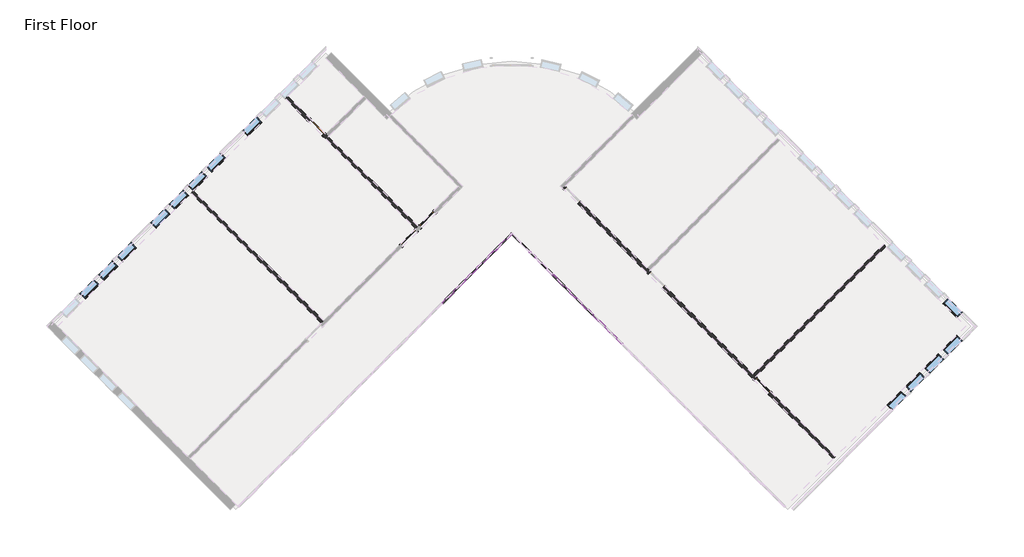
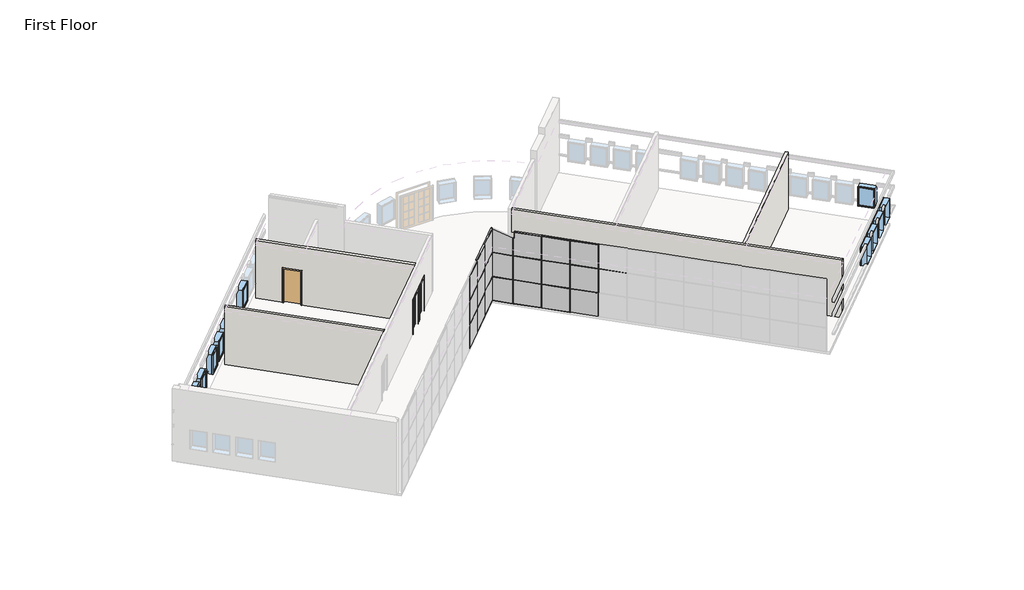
# One storey, part 3 of 5: 47 members, 21 plates, 13 windows, 4 doors, 4 walls.
"""IFC4 building model written with IfcOpenShell, lengths in millimetres."""

from ifc_helpers import new_model, si_unit, origin, origin_with_axes, place, context, project, spatial, polyline, outline, extrude, faceted_brep, transform, mapped, element, save
from components import door_f9494b7c, door_b81abb0e, door_5f5b55da, member_b8a5b5c0, member_155beb68, member_f5090587, member_42be4715, member_6121af53, member_bd80eb51, member_a3731390, member_b87a50da, member_beb33b19, member_b73a8a31, member_6675e4ca, member_4ed907bf, system_panel_glazed_f8555db4, system_panel_glazed_da345f4e, system_panel_glazed_b4114ee2, system_panel_solid_51be2c86, system_panel_solid_5fd6f37f, system_panel_solid_e1a07a15, system_panel_solid_99f695d0, system_panel_solid_2f1037e2, system_panel_solid_f673cd79, system_panel_solid_3576f13f, window_15c49d37, window_0e2fc6ce

model = new_model("IFC4")

# Units and contexts
model_context = context("Model", 3, world=origin())
ifc_project = project(units=[si_unit("LENGTHUNIT", "METRE", prefix="MILLI")], contexts=[model_context])

# Site, building, storey
site = spatial("IfcSite", under=ifc_project)
building = spatial("IfcBuilding", under=site)
storey = spatial("IfcBuildingStorey", under=building, Name="First Floor", Elevation=0.0)

# Doors
placement = place(None, origin())
door_shape = door_f9494b7c(model_context)
element("IfcDoor", 1, ObjectType="Single-Flush : 36\" x 84\"", at=placement, inside=storey, context=model_context, shape_type="MappedRepresentation", body=[
    mapped(door_shape, transform((-11920.1265343, 7875.9588464, 0.0), x_axis=(0.7071067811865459, -0.7071067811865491, 0.0), y_axis=(0.7071067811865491, 0.7071067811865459, 0.0), z_axis=(0.0, 0.0, 1.0))),
])
door_2_shape = door_b81abb0e(model_context)
element("IfcDoor", 2, ObjectType="Single-Glass 1 : 36\" x 84\"", at=placement, inside=storey, context=model_context, shape_type="MappedRepresentation", body=[
    mapped(door_2_shape, transform((-7643.2795567, 2737.0072811, 0.0), x_axis=(0.7071067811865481, 0.7071067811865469, 0.0), y_axis=(-0.7071067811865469, 0.7071067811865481, 0.0), z_axis=(0.0, 0.0, 1.0))),
])
door_3_shape = door_5f5b55da(model_context)
element("IfcDoor", 3, ObjectType="Single-Glass 1 : 36\" x 84\"", at=placement, inside=storey, context=model_context, shape_type="MappedRepresentation", body=[
    mapped(door_3_shape, transform((-6781.1749691, 3599.1118687, 0.0), x_axis=(-0.7071067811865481, -0.7071067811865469, 0.0), y_axis=(0.7071067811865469, -0.7071067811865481, 0.0), z_axis=(0.0, 0.0, 1.0))),
])
element("IfcDoor", 4, ObjectType="Single-Glass 1 : 36\" x 84\"", at=placement, inside=storey, context=model_context, shape_type="MappedRepresentation", body=[
    mapped(door_3_shape, transform((8770.3835686, -4126.1534594, 0.0), x_axis=(-0.7071067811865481, 0.7071067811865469, 0.0), y_axis=(-0.7071067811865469, -0.7071067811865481, 0.0), z_axis=(0.0, 0.0, 1.0))),
])

# Members
member_shape = member_b8a5b5c0(model_context)
element("IfcMember", 5, ObjectType="Rectangular Mullion : 1.5\" x 2.5\" Rectangular", at=placement, inside=storey, context=model_context, shape_type="MappedRepresentation", body=[
    mapped(member_shape, transform((-2894.9691327, 2925.5926597, 0.0), x_axis=(0.0, 0.0, -1.0), y_axis=(-0.7071067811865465, 0.7071067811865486, 0.0), z_axis=(0.7071067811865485, 0.7071067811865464, 0.0))),
])
member_2_shape = member_155beb68(model_context)
element("IfcMember", 6, ObjectType="Rectangular Mullion : 1.5\" x 2.5\" Rectangular", at=placement, inside=storey, context=model_context, shape_type="MappedRepresentation", body=[
    mapped(member_2_shape, transform((-3945.6590988, 1874.9026935, 0.0), x_axis=(-0.7071067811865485, -0.7071067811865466, 0.0), y_axis=(-0.7071067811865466, 0.7071067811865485, 0.0), z_axis=(0.0, 0.0, -1.0))),
])
element("IfcMember", 7, ObjectType="Rectangular Mullion : 1.5\" x 2.5\" Rectangular", at=placement, inside=storey, context=model_context, shape_type="MappedRepresentation", body=[
    mapped(member_2_shape, transform((-5023.2898334, 797.271959, 0.0), x_axis=(-0.7071067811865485, -0.7071067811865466, 0.0), y_axis=(-0.7071067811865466, 0.7071067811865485, 0.0), z_axis=(0.0, 0.0, -1.0))),
])
element("IfcMember", 8, ObjectType="Rectangular Mullion : 1.5\" x 2.5\" Rectangular", at=placement, inside=storey, context=model_context, shape_type="MappedRepresentation", body=[
    mapped(member_2_shape, transform((115.6617319, -31.1566682, 0.0), x_axis=(-0.7071067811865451, 0.70710678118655, 0.0), y_axis=(0.70710678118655, 0.7071067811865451, 0.0), z_axis=(0.0, 0.0, -1.0))),
])
element("IfcMember", 9, ObjectType="Rectangular Mullion : 1.5\" x 2.5\" Rectangular", at=placement, inside=storey, context=model_context, shape_type="MappedRepresentation", body=[
    mapped(member_2_shape, transform((-961.9690026, 1046.4740663, 0.0), x_axis=(-0.7071067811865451, 0.70710678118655, 0.0), y_axis=(0.70710678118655, 0.7071067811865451, 0.0), z_axis=(0.0, 0.0, -1.0))),
])
element("IfcMember", 10, ObjectType="Rectangular Mullion : 1.5\" x 2.5\" Rectangular", at=placement, inside=storey, context=model_context, shape_type="MappedRepresentation", body=[
    mapped(member_2_shape, transform((-2039.5997371, 2124.1048009, 0.0), x_axis=(-0.7071067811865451, 0.70710678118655, 0.0), y_axis=(0.70710678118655, 0.7071067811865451, 0.0), z_axis=(0.0, 0.0, -1.0))),
])
element("IfcMember", 11, ObjectType="Rectangular Mullion : 1.5\" x 2.5\" Rectangular", at=placement, inside=storey, context=model_context, shape_type="MappedRepresentation", body=[
    mapped(member_2_shape, transform((-3945.6590988, 1874.9026935, 3048.0), x_axis=(-0.7071067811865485, -0.7071067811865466, 0.0), y_axis=(-0.7071067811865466, 0.7071067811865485, 0.0), z_axis=(0.0, 0.0, -1.0))),
])
element("IfcMember", 12, ObjectType="Rectangular Mullion : 1.5\" x 2.5\" Rectangular", at=placement, inside=storey, context=model_context, shape_type="MappedRepresentation", body=[
    mapped(member_2_shape, transform((-5023.2898334, 797.271959, 3048.0), x_axis=(-0.7071067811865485, -0.7071067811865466, 0.0), y_axis=(-0.7071067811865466, 0.7071067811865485, 0.0), z_axis=(0.0, 0.0, -1.0))),
])
element("IfcMember", 13, ObjectType="Rectangular Mullion : 1.5\" x 2.5\" Rectangular", at=placement, inside=storey, context=model_context, shape_type="MappedRepresentation", body=[
    mapped(member_2_shape, transform((1193.2924664, -1108.7874027, 3048.0), x_axis=(-0.7071067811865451, 0.70710678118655, 0.0), y_axis=(0.70710678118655, 0.7071067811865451, 0.0), z_axis=(0.0, 0.0, -1.0))),
])
element("IfcMember", 14, ObjectType="Rectangular Mullion : 1.5\" x 2.5\" Rectangular", at=placement, inside=storey, context=model_context, shape_type="MappedRepresentation", body=[
    mapped(member_2_shape, transform((115.6617319, -31.1566682, 3048.0), x_axis=(-0.7071067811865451, 0.70710678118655, 0.0), y_axis=(0.70710678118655, 0.7071067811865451, 0.0), z_axis=(0.0, 0.0, -1.0))),
])
element("IfcMember", 15, ObjectType="Rectangular Mullion : 1.5\" x 2.5\" Rectangular", at=placement, inside=storey, context=model_context, shape_type="MappedRepresentation", body=[
    mapped(member_2_shape, transform((-961.9690026, 1046.4740663, 3048.0), x_axis=(-0.7071067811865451, 0.70710678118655, 0.0), y_axis=(0.70710678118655, 0.7071067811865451, 0.0), z_axis=(0.0, 0.0, -1.0))),
])
element("IfcMember", 16, ObjectType="Rectangular Mullion : 1.5\" x 2.5\" Rectangular", at=placement, inside=storey, context=model_context, shape_type="MappedRepresentation", body=[
    mapped(member_2_shape, transform((-3945.6590988, 1874.9026935, 1524.0), x_axis=(-0.7071067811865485, -0.7071067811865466, 0.0), y_axis=(-0.7071067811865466, 0.7071067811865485, 0.0), z_axis=(0.0, 0.0, -1.0))),
])
element("IfcMember", 17, ObjectType="Rectangular Mullion : 1.5\" x 2.5\" Rectangular", at=placement, inside=storey, context=model_context, shape_type="MappedRepresentation", body=[
    mapped(member_2_shape, transform((-5023.2898334, 797.271959, 1524.0), x_axis=(-0.7071067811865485, -0.7071067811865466, 0.0), y_axis=(-0.7071067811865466, 0.7071067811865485, 0.0), z_axis=(0.0, 0.0, -1.0))),
])
element("IfcMember", 18, ObjectType="Rectangular Mullion : 1.5\" x 2.5\" Rectangular", at=placement, inside=storey, context=model_context, shape_type="MappedRepresentation", body=[
    mapped(member_2_shape, transform((1193.2924664, -1108.7874027, 1524.0), x_axis=(-0.7071067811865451, 0.70710678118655, 0.0), y_axis=(0.70710678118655, 0.7071067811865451, 0.0), z_axis=(0.0, 0.0, -1.0))),
])
element("IfcMember", 19, ObjectType="Rectangular Mullion : 1.5\" x 2.5\" Rectangular", at=placement, inside=storey, context=model_context, shape_type="MappedRepresentation", body=[
    mapped(member_2_shape, transform((115.6617319, -31.1566682, 1524.0), x_axis=(-0.7071067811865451, 0.70710678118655, 0.0), y_axis=(0.70710678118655, 0.7071067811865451, 0.0), z_axis=(0.0, 0.0, -1.0))),
])
element("IfcMember", 20, ObjectType="Rectangular Mullion : 1.5\" x 2.5\" Rectangular", at=placement, inside=storey, context=model_context, shape_type="MappedRepresentation", body=[
    mapped(member_2_shape, transform((-961.9690026, 1046.4740663, 1524.0), x_axis=(-0.7071067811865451, 0.70710678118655, 0.0), y_axis=(0.70710678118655, 0.7071067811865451, 0.0), z_axis=(0.0, 0.0, -1.0))),
])
element("IfcMember", 21, ObjectType="Rectangular Mullion : 1.5\" x 2.5\" Rectangular", at=placement, inside=storey, context=model_context, shape_type="MappedRepresentation", body=[
    mapped(member_2_shape, transform((-2039.5997371, 2124.1048009, 1524.0), x_axis=(-0.7071067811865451, 0.70710678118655, 0.0), y_axis=(0.70710678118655, 0.7071067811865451, 0.0), z_axis=(0.0, 0.0, -1.0))),
])
member_3_shape = member_f5090587(model_context)
element("IfcMember", 22, ObjectType="Rectangular Mullion : 1.5\" x 2.5\" Rectangular", at=placement, inside=storey, context=model_context, shape_type="MappedRepresentation", body=[
    mapped(member_3_shape, transform((-3932.1887147, 1888.3730777, 1524.0), x_axis=(0.0, 0.0, 1.0), y_axis=(-0.7071067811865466, 0.7071067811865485, 0.0), z_axis=(-0.7071067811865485, -0.7071067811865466, 0.0))),
])
element("IfcMember", 23, ObjectType="Rectangular Mullion : 1.5\" x 2.5\" Rectangular", at=placement, inside=storey, context=model_context, shape_type="MappedRepresentation", body=[
    mapped(member_3_shape, transform((-3932.1887147, 1888.3730777, 3048.0), x_axis=(0.0, 0.0, 1.0), y_axis=(-0.7071067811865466, 0.7071067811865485, 0.0), z_axis=(-0.7071067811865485, -0.7071067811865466, 0.0))),
])
member_4_shape = member_42be4715(model_context)
element("IfcMember", 24, ObjectType="Rectangular Mullion : 1.5\" x 2.5\" Rectangular", at=placement, inside=storey, context=model_context, shape_type="MappedRepresentation", body=[
    mapped(member_4_shape, transform((-5009.8194492, 810.7423431, 1524.0), x_axis=(0.0, 0.0, 1.0), y_axis=(-0.7071067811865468, 0.7071067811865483, 0.0), z_axis=(-0.7071067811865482, -0.7071067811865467, 0.0))),
])
element("IfcMember", 25, ObjectType="Rectangular Mullion : 1.5\" x 2.5\" Rectangular", at=placement, inside=storey, context=model_context, shape_type="MappedRepresentation", body=[
    mapped(member_4_shape, transform((-5009.8194492, 810.7423431, 3048.0), x_axis=(0.0, 0.0, 1.0), y_axis=(-0.7071067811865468, 0.7071067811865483, 0.0), z_axis=(-0.7071067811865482, -0.7071067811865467, 0.0))),
])
element("IfcMember", 26, ObjectType="Rectangular Mullion : 1.5\" x 2.5\" Rectangular", at=placement, inside=storey, context=model_context, shape_type="MappedRepresentation", body=[
    mapped(member_4_shape, transform((-2026.129353, 2110.6344167, 3048.0), x_axis=(0.0, 0.0, 1.0), y_axis=(0.7071067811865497, 0.7071067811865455, 0.0), z_axis=(-0.7071067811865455, 0.7071067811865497, 0.0))),
])
element("IfcMember", 27, ObjectType="Rectangular Mullion : 1.5\" x 2.5\" Rectangular", at=placement, inside=storey, context=model_context, shape_type="MappedRepresentation", body=[
    mapped(member_4_shape, transform((129.1321161, -44.6270524, 1524.0), x_axis=(0.0, 0.0, 1.0), y_axis=(0.70710678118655, 0.707106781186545, 0.0), z_axis=(-0.707106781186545, 0.70710678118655, 0.0))),
])
element("IfcMember", 28, ObjectType="Rectangular Mullion : 1.5\" x 2.5\" Rectangular", at=placement, inside=storey, context=model_context, shape_type="MappedRepresentation", body=[
    mapped(member_4_shape, transform((-948.4986184, 1033.0036821, 1524.0), x_axis=(0.0, 0.0, 1.0), y_axis=(0.7071067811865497, 0.7071067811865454, 0.0), z_axis=(-0.7071067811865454, 0.7071067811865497, 0.0))),
])
element("IfcMember", 29, ObjectType="Rectangular Mullion : 1.5\" x 2.5\" Rectangular", at=placement, inside=storey, context=model_context, shape_type="MappedRepresentation", body=[
    mapped(member_4_shape, transform((-2026.129353, 2110.6344167, 1524.0), x_axis=(0.0, 0.0, 1.0), y_axis=(0.7071067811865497, 0.7071067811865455, 0.0), z_axis=(-0.7071067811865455, 0.7071067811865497, 0.0))),
])
element("IfcMember", 30, ObjectType="Rectangular Mullion : 1.5\" x 2.5\" Rectangular", at=placement, inside=storey, context=model_context, shape_type="MappedRepresentation", body=[
    mapped(member_4_shape, transform((1206.7628506, -1122.2577869, 3048.0), x_axis=(0.0, 0.0, 1.0), y_axis=(0.70710678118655, 0.707106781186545, 0.0), z_axis=(-0.707106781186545, 0.70710678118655, 0.0))),
])
element("IfcMember", 31, ObjectType="Rectangular Mullion : 1.5\" x 2.5\" Rectangular", at=placement, inside=storey, context=model_context, shape_type="MappedRepresentation", body=[
    mapped(member_4_shape, transform((129.1321161, -44.6270524, 3048.0), x_axis=(0.0, 0.0, 1.0), y_axis=(0.70710678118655, 0.707106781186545, 0.0), z_axis=(-0.7071067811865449, 0.7071067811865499, 0.0))),
])
element("IfcMember", 32, ObjectType="Rectangular Mullion : 1.5\" x 2.5\" Rectangular", at=placement, inside=storey, context=model_context, shape_type="MappedRepresentation", body=[
    mapped(member_4_shape, transform((-948.4986184, 1033.0036821, 3048.0), x_axis=(0.0, 0.0, 1.0), y_axis=(0.7071067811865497, 0.7071067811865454, 0.0), z_axis=(-0.7071067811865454, 0.7071067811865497, 0.0))),
])
member_5_shape = member_6121af53(model_context)
element("IfcMember", 33, ObjectType="Rectangular Mullion : 1.5\" x 2.5\" Rectangular", at=placement, inside=storey, context=model_context, shape_type="MappedRepresentation", body=[
    mapped(member_5_shape, transform((-3959.129483, 1861.4323093, 0.0), x_axis=(0.0, 0.0, -1.0), y_axis=(-0.7071067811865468, 0.7071067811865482, 0.0), z_axis=(0.7071067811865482, 0.7071067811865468, 0.0))),
])
element("IfcMember", 34, ObjectType="Rectangular Mullion : 1.5\" x 2.5\" Rectangular", at=placement, inside=storey, context=model_context, shape_type="MappedRepresentation", body=[
    mapped(member_5_shape, transform((-5036.7602175, 783.8015748, 0.0), x_axis=(0.0, 0.0, -1.0), y_axis=(-0.7071067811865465, 0.7071067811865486, 0.0), z_axis=(0.7071067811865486, 0.7071067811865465, 0.0))),
])
element("IfcMember", 35, ObjectType="Rectangular Mullion : 1.5\" x 2.5\" Rectangular", at=placement, inside=storey, context=model_context, shape_type="MappedRepresentation", body=[
    mapped(member_5_shape, transform((102.1913477, -17.686284, 0.0), x_axis=(0.0, 0.0, -1.0), y_axis=(0.7071067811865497, 0.7071067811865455, 0.0), z_axis=(0.7071067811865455, -0.7071067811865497, 0.0))),
])
element("IfcMember", 36, ObjectType="Rectangular Mullion : 1.5\" x 2.5\" Rectangular", at=placement, inside=storey, context=model_context, shape_type="MappedRepresentation", body=[
    mapped(member_5_shape, transform((-975.4393868, 1059.9444505, 0.0), x_axis=(0.0, 0.0, -1.0), y_axis=(0.7071067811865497, 0.7071067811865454, 0.0), z_axis=(0.7071067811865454, -0.7071067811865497, 0.0))),
])
member_6_shape = member_bd80eb51(model_context)
element("IfcMember", 37, ObjectType="Rectangular Mullion : 1.5\" x 2.5\" Rectangular", at=placement, inside=storey, context=model_context, shape_type="MappedRepresentation", body=[
    mapped(member_6_shape, transform((-2053.0701213, 2137.575185, 0.0), x_axis=(0.0, 0.0, -1.0), y_axis=(0.7071067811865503, 0.7071067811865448, 0.0), z_axis=(0.7071067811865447, -0.7071067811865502, 0.0))),
])
element("IfcMember", 38, ObjectType="Rectangular Mullion : 1.5\" x 2.5\" Rectangular", at=placement, inside=storey, context=model_context, shape_type="MappedRepresentation", body=[
    mapped(member_shape, transform((-3932.1887147, 1888.3730777, 4572.0), x_axis=(0.0, 0.0, 1.0), y_axis=(-0.7071067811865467, 0.7071067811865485, 0.0), z_axis=(-0.7071067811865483, -0.7071067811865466, 0.0))),
])
element("IfcMember", 39, ObjectType="Rectangular Mullion : 1.5\" x 2.5\" Rectangular", at=placement, inside=storey, context=model_context, shape_type="MappedRepresentation", body=[
    mapped(member_5_shape, transform((-5009.8194492, 810.7423431, 4572.0), x_axis=(0.0, 0.0, 1.0), y_axis=(-0.7071067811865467, 0.7071067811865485, 0.0), z_axis=(-0.7071067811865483, -0.7071067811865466, 0.0))),
])
element("IfcMember", 40, ObjectType="Rectangular Mullion : 1.5\" x 2.5\" Rectangular", at=placement, inside=storey, context=model_context, shape_type="MappedRepresentation", body=[
    mapped(member_5_shape, transform((129.1321161, -44.6270524, 4572.0), x_axis=(0.0, 0.0, 1.0), y_axis=(0.70710678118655, 0.707106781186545, 0.0), z_axis=(-0.7071067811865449, 0.7071067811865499, 0.0))),
])
element("IfcMember", 41, ObjectType="Rectangular Mullion : 1.5\" x 2.5\" Rectangular", at=placement, inside=storey, context=model_context, shape_type="MappedRepresentation", body=[
    mapped(member_5_shape, transform((-948.4986184, 1033.0036821, 4572.0), x_axis=(0.0, 0.0, 1.0), y_axis=(0.7071067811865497, 0.7071067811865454, 0.0), z_axis=(-0.7071067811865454, 0.7071067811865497, 0.0))),
])
member_7_shape = member_a3731390(model_context)
element("IfcMember", 42, ObjectType="Rectangular Mullion : 1.5\" x 2.5\" Rectangular", at=placement, inside=storey, context=model_context, shape_type="MappedRepresentation", body=[
    mapped(member_7_shape, transform((-2841.0875959, 2925.5926597, 3048.0), x_axis=(0.0, 0.0, 1.0), y_axis=(0.7071067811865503, 0.7071067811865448, 0.0), z_axis=(-0.7071067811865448, 0.7071067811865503, 0.0))),
])
element("IfcMember", 43, ObjectType="Rectangular Mullion : 1.5\" x 2.5\" Rectangular", at=placement, inside=storey, context=model_context, shape_type="MappedRepresentation", body=[
    mapped(member_7_shape, transform((-2841.0875959, 2925.5926597, 1524.0), x_axis=(0.0, 0.0, 1.0), y_axis=(0.7071067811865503, 0.7071067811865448, 0.0), z_axis=(-0.7071067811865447, 0.7071067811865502, 0.0))),
])
member_8_shape = member_b87a50da(model_context)
element("IfcMember", 44, ObjectType="Rectangular Mullion : 1.5\" x 2.5\" Rectangular", at=placement, inside=storey, context=model_context, shape_type="MappedRepresentation", body=[
    mapped(member_8_shape, transform((-2868.0283643, 2952.533428, 4572.0), x_axis=(0.7071067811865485, 0.7071067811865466, 0.0), y_axis=(-0.7071067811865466, 0.7071067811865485, 0.0), z_axis=(0.0, 0.0, 1.0))),
])
element("IfcMember", 45, ObjectType="Rectangular Mullion : 1.5\" x 2.5\" Rectangular", at=placement, inside=storey, context=model_context, shape_type="MappedRepresentation", body=[
    mapped(member_8_shape, transform((-2868.0283643, 2952.533428, 1524.0), x_axis=(-0.7071067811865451, 0.70710678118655, 0.0), y_axis=(0.70710678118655, 0.7071067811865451, 0.0), z_axis=(0.0, 0.0, -1.0))),
])
element("IfcMember", 46, ObjectType="Rectangular Mullion : 1.5\" x 2.5\" Rectangular", at=placement, inside=storey, context=model_context, shape_type="MappedRepresentation", body=[
    mapped(member_8_shape, transform((-2868.0283643, 2952.533428, 1524.0), x_axis=(0.7071067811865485, 0.7071067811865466, 0.0), y_axis=(-0.7071067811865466, 0.7071067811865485, 0.0), z_axis=(0.0, 0.0, 1.0))),
])
element("IfcMember", 47, ObjectType="Rectangular Mullion : 1.5\" x 2.5\" Rectangular", at=placement, inside=storey, context=model_context, shape_type="MappedRepresentation", body=[
    mapped(member_8_shape, transform((-2868.0283643, 2952.533428, 3048.0), x_axis=(0.7071067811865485, 0.7071067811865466, 0.0), y_axis=(-0.7071067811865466, 0.7071067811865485, 0.0), z_axis=(0.0, 0.0, 1.0))),
])
member_9_shape = member_beb33b19(model_context)
element("IfcMember", 48, ObjectType="Rectangular Mullion : 1.5\" x 2.5\" Rectangular", at=placement, inside=storey, context=model_context, shape_type="MappedRepresentation", body=[
    mapped(member_9_shape, transform((-2039.5997371, 2124.1048009, 4181.475), x_axis=(0.2236067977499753, -0.22360679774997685, 0.9486832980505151), y_axis=(0.7071067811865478, 0.7071067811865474, 0.0), z_axis=(-0.6708203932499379, 0.6708203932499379, 0.3162277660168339))),
])
member_10_shape = member_b73a8a31(model_context)
element("IfcMember", 49, ObjectType="Rectangular Mullion : 1.5\" x 2.5\" Rectangular", at=placement, inside=storey, context=model_context, shape_type="MappedRepresentation", body=[
    mapped(member_10_shape, transform((-2039.5997371, 2124.1048009, 3048.0), x_axis=(-0.7071067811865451, 0.70710678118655, 0.0), y_axis=(0.70710678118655, 0.7071067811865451, 0.0), z_axis=(0.0, 0.0, -1.0))),
])
member_11_shape = member_6675e4ca(model_context)
element("IfcMember", 50, ObjectType="Rectangular Mullion : 1.5\" x 2.5\" Rectangular", at=placement, inside=storey, context=model_context, shape_type="MappedRepresentation", body=[
    mapped(member_11_shape, transform((-2005.9237767, 2090.4288404, 4165.6), x_axis=(-0.7071067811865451, 0.70710678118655, 0.0), y_axis=(0.70710678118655, 0.7071067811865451, 0.0), z_axis=(0.0, 0.0, -1.0))),
])
member_12_shape = member_4ed907bf(model_context)
element("IfcMember", 51, ObjectType="Rectangular Mullion : 1.5\" x 2.5\" Rectangular", at=placement, inside=storey, context=model_context, shape_type="MappedRepresentation", body=[
    mapped(member_12_shape, transform((-2868.0283643, 2952.533428, 3048.0), x_axis=(-0.7071067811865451, 0.70710678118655, 0.0), y_axis=(0.70710678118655, 0.7071067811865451, 0.0), z_axis=(0.0, 0.0, -1.0))),
])

# Plates
system_panel_glazed_shape = system_panel_glazed_f8555db4(model_context)
element("IfcPlate", 52, ObjectType="System Panel : Glazed", at=placement, inside=storey, context=model_context, shape_type="MappedRepresentation", body=[
    mapped(system_panel_glazed_shape, transform((-3413.5789237, 2406.9828687, 38.1), x_axis=(-0.7071067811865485, -0.7071067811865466, 0.0), y_axis=(0.7071067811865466, -0.7071067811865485, 0.0), z_axis=(0.0, 0.0, 1.0))),
])
system_panel_glazed_2_shape = system_panel_glazed_da345f4e(model_context)
element("IfcPlate", 53, ObjectType="System Panel : Glazed", at=placement, inside=storey, context=model_context, shape_type="MappedRepresentation", body=[
    mapped(system_panel_glazed_2_shape, transform((654.4770992, -569.9720355, 38.1), x_axis=(-0.7071067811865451, 0.70710678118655, 0.0), y_axis=(-0.70710678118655, -0.7071067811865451, 0.0), z_axis=(0.0, 0.0, 1.0))),
])
element("IfcPlate", 54, ObjectType="System Panel : Glazed", at=placement, inside=storey, context=model_context, shape_type="MappedRepresentation", body=[
    mapped(system_panel_glazed_2_shape, transform((-423.1536353, 507.6586991, 38.1), x_axis=(-0.7071067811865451, 0.70710678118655, 0.0), y_axis=(-0.70710678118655, -0.7071067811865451, 0.0), z_axis=(0.0, 0.0, 1.0))),
])
element("IfcPlate", 55, ObjectType="System Panel : Glazed", at=placement, inside=storey, context=model_context, shape_type="MappedRepresentation", body=[
    mapped(system_panel_glazed_2_shape, transform((-4484.4744661, 1336.0873262, 38.1), x_axis=(-0.7071067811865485, -0.7071067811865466, 0.0), y_axis=(0.7071067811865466, -0.7071067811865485, 0.0), z_axis=(0.0, 0.0, 1.0))),
])
element("IfcPlate", 56, ObjectType="System Panel : Glazed", at=placement, inside=storey, context=model_context, shape_type="MappedRepresentation", body=[
    mapped(system_panel_glazed_2_shape, transform((-5562.1052006, 258.4565917, 38.1), x_axis=(-0.7071067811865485, -0.7071067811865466, 0.0), y_axis=(0.7071067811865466, -0.7071067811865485, 0.0), z_axis=(0.0, 0.0, 1.0))),
])
element("IfcPlate", 57, ObjectType="System Panel : Glazed", at=placement, inside=storey, context=model_context, shape_type="MappedRepresentation", body=[
    mapped(system_panel_glazed_2_shape, transform((-1500.7843699, 1585.2894336, 38.1), x_axis=(-0.7071067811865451, 0.70710678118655, 0.0), y_axis=(-0.70710678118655, -0.7071067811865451, 0.0), z_axis=(0.0, 0.0, 1.0))),
])
system_panel_glazed_3_shape = system_panel_glazed_b4114ee2(model_context)
element("IfcPlate", 58, ObjectType="System Panel : Glazed", at=placement, inside=storey, context=model_context, shape_type="MappedRepresentation", body=[
    mapped(system_panel_glazed_3_shape, transform((-2447.0788586, 2531.5839223, 38.1), x_axis=(-0.7071067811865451, 0.70710678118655, 0.0), y_axis=(-0.70710678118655, -0.7071067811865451, 0.0), z_axis=(0.0, 0.0, 1.0))),
])
system_panel_solid_shape = system_panel_solid_51be2c86(model_context)
element("IfcPlate", 59, ObjectType="System Panel : Solid", at=placement, inside=storey, context=model_context, shape_type="MappedRepresentation", body=[
    mapped(system_panel_solid_shape, transform((-3413.5789237, 2406.9828687, 1543.05), x_axis=(-0.7071067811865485, -0.7071067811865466, 0.0), y_axis=(0.7071067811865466, -0.7071067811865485, 0.0), z_axis=(0.0, 0.0, 1.0))),
])
system_panel_solid_2_shape = system_panel_solid_5fd6f37f(model_context)
element("IfcPlate", 60, ObjectType="System Panel : Solid", at=placement, inside=storey, context=model_context, shape_type="MappedRepresentation", body=[
    mapped(system_panel_solid_2_shape, transform((654.4770992, -569.9720355, 1543.05), x_axis=(-0.7071067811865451, 0.70710678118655, 0.0), y_axis=(-0.70710678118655, -0.7071067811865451, 0.0), z_axis=(0.0, 0.0, 1.0))),
])
element("IfcPlate", 61, ObjectType="System Panel : Solid", at=placement, inside=storey, context=model_context, shape_type="MappedRepresentation", body=[
    mapped(system_panel_solid_2_shape, transform((-423.1536353, 507.6586991, 1543.05), x_axis=(-0.7071067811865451, 0.70710678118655, 0.0), y_axis=(-0.70710678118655, -0.7071067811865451, 0.0), z_axis=(0.0, 0.0, 1.0))),
])
element("IfcPlate", 62, ObjectType="System Panel : Solid", at=placement, inside=storey, context=model_context, shape_type="MappedRepresentation", body=[
    mapped(system_panel_solid_2_shape, transform((-4484.4744661, 1336.0873262, 1543.05), x_axis=(-0.7071067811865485, -0.7071067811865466, 0.0), y_axis=(0.7071067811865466, -0.7071067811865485, 0.0), z_axis=(0.0, 0.0, 1.0))),
])
element("IfcPlate", 63, ObjectType="System Panel : Solid", at=placement, inside=storey, context=model_context, shape_type="MappedRepresentation", body=[
    mapped(system_panel_solid_2_shape, transform((-5562.1052006, 258.4565917, 1543.05), x_axis=(-0.7071067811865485, -0.7071067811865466, 0.0), y_axis=(0.7071067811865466, -0.7071067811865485, 0.0), z_axis=(0.0, 0.0, 1.0))),
])
element("IfcPlate", 64, ObjectType="System Panel : Solid", at=placement, inside=storey, context=model_context, shape_type="MappedRepresentation", body=[
    mapped(system_panel_solid_2_shape, transform((-1500.7843699, 1585.2894336, 1543.05), x_axis=(-0.7071067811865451, 0.70710678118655, 0.0), y_axis=(-0.70710678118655, -0.7071067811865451, 0.0), z_axis=(0.0, 0.0, 1.0))),
])
system_panel_solid_3_shape = system_panel_solid_e1a07a15(model_context)
element("IfcPlate", 65, ObjectType="System Panel : Solid", at=placement, inside=storey, context=model_context, shape_type="MappedRepresentation", body=[
    mapped(system_panel_solid_3_shape, transform((-2447.0788586, 2531.5839223, 1543.05), x_axis=(-0.7071067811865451, 0.70710678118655, 0.0), y_axis=(-0.70710678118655, -0.7071067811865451, 0.0), z_axis=(0.0, 0.0, 1.0))),
])
system_panel_solid_4_shape = system_panel_solid_99f695d0(model_context)
element("IfcPlate", 66, ObjectType="System Panel : Solid", at=placement, inside=storey, context=model_context, shape_type="MappedRepresentation", body=[
    mapped(system_panel_solid_4_shape, transform((-3413.5789237, 2406.9828687, 3067.05), x_axis=(-0.7071067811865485, -0.7071067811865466, 0.0), y_axis=(0.7071067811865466, -0.7071067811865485, 0.0), z_axis=(0.0, 0.0, 1.0))),
])
system_panel_solid_5_shape = system_panel_solid_2f1037e2(model_context)
element("IfcPlate", 67, ObjectType="System Panel : Solid", at=placement, inside=storey, context=model_context, shape_type="MappedRepresentation", body=[
    mapped(system_panel_solid_5_shape, transform((654.4770992, -569.9720355, 3067.05), x_axis=(-0.7071067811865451, 0.70710678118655, 0.0), y_axis=(-0.70710678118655, -0.7071067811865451, 0.0), z_axis=(0.0, 0.0, 1.0))),
])
element("IfcPlate", 68, ObjectType="System Panel : Solid", at=placement, inside=storey, context=model_context, shape_type="MappedRepresentation", body=[
    mapped(system_panel_solid_5_shape, transform((-423.1536353, 507.6586991, 3067.05), x_axis=(-0.7071067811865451, 0.70710678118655, 0.0), y_axis=(-0.70710678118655, -0.7071067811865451, 0.0), z_axis=(0.0, 0.0, 1.0))),
])
element("IfcPlate", 69, ObjectType="System Panel : Solid", at=placement, inside=storey, context=model_context, shape_type="MappedRepresentation", body=[
    mapped(system_panel_solid_5_shape, transform((-4484.4744661, 1336.0873262, 3067.05), x_axis=(-0.7071067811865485, -0.7071067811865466, 0.0), y_axis=(0.7071067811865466, -0.7071067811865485, 0.0), z_axis=(0.0, 0.0, 1.0))),
])
element("IfcPlate", 70, ObjectType="System Panel : Solid", at=placement, inside=storey, context=model_context, shape_type="MappedRepresentation", body=[
    mapped(system_panel_solid_5_shape, transform((-5562.1052006, 258.4565917, 3067.05), x_axis=(-0.7071067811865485, -0.7071067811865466, 0.0), y_axis=(0.7071067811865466, -0.7071067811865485, 0.0), z_axis=(0.0, 0.0, 1.0))),
])
system_panel_solid_6_shape = system_panel_solid_f673cd79(model_context)
element("IfcPlate", 71, ObjectType="System Panel : Solid", at=placement, inside=storey, context=model_context, shape_type="MappedRepresentation", body=[
    mapped(system_panel_solid_6_shape, transform((-1500.7843699, 1585.2894336, 3067.05), x_axis=(-0.7071067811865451, 0.70710678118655, 0.0), y_axis=(-0.70710678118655, -0.7071067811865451, 0.0), z_axis=(0.0, 0.0, 1.0))),
])
system_panel_solid_7_shape = system_panel_solid_3576f13f(model_context)
element("IfcPlate", 72, ObjectType="System Panel : Solid", at=placement, inside=storey, context=model_context, shape_type="MappedRepresentation", body=[
    mapped(system_panel_solid_7_shape, transform((-2447.0788586, 2531.5839223, 3067.05), x_axis=(-0.7071067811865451, 0.70710678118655, 0.0), y_axis=(-0.70710678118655, -0.7071067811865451, 0.0), z_axis=(0.0, 0.0, 1.0))),
])

# Walls
element("IfcWall", 73, ObjectType="Interior - 6 1/8\" Partition (2-hr)", at=placement, inside=storey, context=model_context, shape_type="Brep", body=[
    faceted_brep([(-7212.2272629, 3278.0677124, 0.0), (-11379.066103, 7444.9065526, 0.0), (-11489.0742405, 7554.9146901, 0.0), (-11541.8332452, 7607.6736948, 0.0), (-11541.8332452, 7607.6736948, 2133.6), (-12188.411686, 8254.2521355, 2133.6), (-12188.411686, 8254.2521355, 0.0), (-13249.2044403, 9315.0448898, 0.0), (-13249.2044403, 9315.0448898, 3657.6), (-11489.0742405, 7554.9146901, 3657.6), (-11379.066103, 7444.9065526, 3657.6), (-7212.2272629, 3278.0677124, 3657.6), (-11651.8413827, 7497.6655573, 2133.6), (-11651.8413827, 7497.6655573, 0.0), (-7322.2354004, 3168.0595749, 0.0), (-7322.2354004, 3168.0595749, 3657.6), (-13359.2125777, 9205.0367523, 3657.6), (-13359.2125777, 9205.0367523, 0.0), (-12298.4198234, 8144.243998, 0.0), (-12298.4198234, 8144.243998, 2133.6)], [[[0, 1, 2, 3, 4, 5, 6, 7, 8, 9, 10, 11]], [[12, 13, 14, 15, 16, 17, 18, 19]], [[14, 13, 3, 2, 1, 0]], [[18, 17, 7, 6]], [[11, 10, 9, 8, 16, 15]], [[8, 7, 17, 16]], [[0, 11, 15, 14]], [[4, 3, 13, 12]], [[5, 4, 12, 19]], [[6, 5, 19, 18]]]),
])
element("IfcWall", 74, ObjectType="Interior - 6 1/8\" Partition (2-hr)", at=placement, inside=storey, context=model_context, shape_type="SweptSolid", body=[
    extrude(outline(polyline([(-17633.6967091, 4930.552621), (-11596.7195317, -1106.4245564), (-11706.7276692, -1216.4326939), (-17743.7048466, 4820.5444835), (-17633.6967091, 4930.552621)])), origin_with_axes(), (0.0, 0.0, 1.0), 3657.6),
])
element("IfcWall", 75, ObjectType="Interior - 6 1/8\" Partition (2-hr)", at=placement, inside=storey, context=model_context, shape_type="Brep", body=[
    faceted_brep([(8502.098417, -3747.8601703, 2133.6), (8502.098417, -3747.8601703, 0.0), (8449.3394123, -3695.1011656, 0.0), (8339.3312748, -3585.0930281, 0.0), (4225.2514393, 528.9868073, 0.0), (4225.2514393, 528.9868073, 2133.6), (3578.6729986, 1175.5652481, 2133.6), (3578.6729986, 1175.5652481, 0.0), (3525.9139939, 1228.3242528, 0.0), (3415.9058564, 1338.3323903, 0.0), (311.86927, 4442.3689766, 0.0), (311.86927, 4442.3689766, 2133.6), (-334.7091707, 5088.9474174, 2133.6), (-334.7091707, 5088.9474174, 0.0), (-387.4681754, 5141.7064221, 0.0), (-387.4681754, 5141.7064221, 3657.6), (3415.9058564, 1338.3323903, 3657.6), (3525.9139939, 1228.3242528, 3657.6), (8339.3312748, -3585.0930281, 3657.6), (8449.3394123, -3695.1011656, 3657.6), (12149.2049342, -7394.9666875, 3657.6), (12149.2049342, -7394.9666875, 0.0), (9148.6768577, -4394.438611, 0.0), (9148.6768577, -4394.438611, 2133.6), (4115.2433018, 418.9786699, 0.0), (8392.0902795, -3857.8683078, 0.0), (8392.0902795, -3857.8683078, 2133.6), (9038.6687202, -4504.4467485, 2133.6), (9038.6687202, -4504.4467485, 0.0), (12039.1967967, -7504.974825, 0.0), (12039.1967967, -7504.974825, 3657.6), (-497.4763129, 5031.6982846, 3657.6), (-497.4763129, 5031.6982846, 0.0), (-444.7173082, 4978.9392799, 0.0), (-444.7173082, 4978.9392799, 2133.6), (201.8611325, 4332.3608392, 2133.6), (201.8611325, 4332.3608392, 0.0), (3468.6648611, 1065.5571106, 0.0), (3468.6648611, 1065.5571106, 2133.6), (4115.2433018, 418.9786699, 2133.6)], [[[0, 1, 2, 3, 4, 5, 6, 7, 8, 9, 10, 11, 12, 13, 14, 15, 16, 17, 18, 19, 20, 21, 22, 23]], [[24, 25, 26, 27, 28, 29, 30, 31, 32, 33, 34, 35, 36, 37, 38, 39]], [[14, 13, 33, 32]], [[10, 9, 8, 7, 37, 36]], [[4, 3, 2, 1, 25, 24]], [[22, 21, 29, 28]], [[20, 19, 18, 17, 16, 15, 31, 30]], [[15, 14, 32, 31]], [[21, 20, 30, 29]], [[34, 33, 13, 12]], [[35, 34, 12, 11]], [[36, 35, 11, 10]], [[38, 37, 7, 6]], [[39, 38, 6, 5]], [[24, 39, 5, 4]], [[26, 25, 1, 0]], [[27, 26, 0, 23]], [[28, 27, 23, 22]]]),
])
element("IfcWall", 76, ObjectType="Interior - 6 1/8\" Partition (2-hr)", at=placement, inside=storey, context=model_context, shape_type="SweptSolid", body=[
    extrude(outline(polyline([(8339.3312748, -3585.0930281), (14376.3084522, 2451.8841493), (14486.3165897, 2341.8760118), (8449.3394123, -3695.1011656), (8339.3312748, -3585.0930281)])), origin_with_axes(), (0.0, 0.0, 1.0), 3657.6),
])

# Windows
window_shape = window_15c49d37(model_context)
element("IfcWindow", 77, ObjectType="Fixed : 36\" x 48\"", at=placement, inside=storey, context=model_context, shape_type="MappedRepresentation", body=[
    mapped(window_shape, transform((-22474.1725406, 339.2788968, 0.0), x_axis=(-0.7071067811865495, -0.7071067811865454, 0.0), y_axis=(0.7071067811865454, -0.7071067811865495, 0.0), z_axis=(0.0, 0.0, 1.0))),
])
element("IfcWindow", 78, ObjectType="Fixed : 36\" x 48\"", at=placement, inside=storey, context=model_context, shape_type="MappedRepresentation", body=[
    mapped(window_shape, transform((-21612.067953, 1201.3834844, 0.0), x_axis=(-0.7071067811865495, -0.7071067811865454, 0.0), y_axis=(0.7071067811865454, -0.7071067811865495, 0.0), z_axis=(0.0, 0.0, 1.0))),
])
element("IfcWindow", 79, ObjectType="Fixed : 36\" x 48\"", at=placement, inside=storey, context=model_context, shape_type="MappedRepresentation", body=[
    mapped(window_shape, transform((-20749.9633654, 2063.488072, 0.0), x_axis=(-0.7071067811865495, -0.7071067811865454, 0.0), y_axis=(0.7071067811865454, -0.7071067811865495, 0.0), z_axis=(0.0, 0.0, 1.0))),
])
element("IfcWindow", 80, ObjectType="Fixed : 36\" x 48\"", at=placement, inside=storey, context=model_context, shape_type="MappedRepresentation", body=[
    mapped(window_shape, transform((-19187.8702245, 3625.5812129, 0.0), x_axis=(-0.7071067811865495, -0.7071067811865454, 0.0), y_axis=(0.7071067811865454, -0.7071067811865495, 0.0), z_axis=(0.0, 0.0, 1.0))),
])
element("IfcWindow", 81, ObjectType="Fixed : 36\" x 48\"", at=placement, inside=storey, context=model_context, shape_type="MappedRepresentation", body=[
    mapped(window_shape, transform((-18325.7656368, 4487.6858006, 0.0), x_axis=(-0.7071067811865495, -0.7071067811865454, 0.0), y_axis=(0.7071067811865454, -0.7071067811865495, 0.0), z_axis=(0.0, 0.0, 1.0))),
])
element("IfcWindow", 82, ObjectType="Fixed : 36\" x 48\"", at=placement, inside=storey, context=model_context, shape_type="MappedRepresentation", body=[
    mapped(window_shape, transform((-17463.6610492, 5349.7903882, 0.0), x_axis=(-0.7071067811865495, -0.7071067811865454, 0.0), y_axis=(0.7071067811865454, -0.7071067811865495, 0.0), z_axis=(0.0, 0.0, 1.0))),
])
element("IfcWindow", 83, ObjectType="Fixed : 36\" x 48\"", at=placement, inside=storey, context=model_context, shape_type="MappedRepresentation", body=[
    mapped(window_shape, transform((-16601.5564616, 6211.8949758, 0.0), x_axis=(-0.7071067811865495, -0.7071067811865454, 0.0), y_axis=(0.7071067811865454, -0.7071067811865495, 0.0), z_axis=(0.0, 0.0, 1.0))),
])
element("IfcWindow", 84, ObjectType="Fixed : 36\" x 48\"", at=placement, inside=storey, context=model_context, shape_type="MappedRepresentation", body=[
    mapped(window_shape, transform((17600.2203996, -2193.1533294, 0.0), x_axis=(0.7071067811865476, 0.7071067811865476, 0.0), y_axis=(-0.7071067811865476, 0.7071067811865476, 0.0), z_axis=(0.0, 0.0, 1.0))),
])
element("IfcWindow", 85, ObjectType="Fixed : 36\" x 48\"", at=placement, inside=storey, context=model_context, shape_type="MappedRepresentation", body=[
    mapped(window_shape, transform((16738.115812, -3055.257917, 0.0), x_axis=(0.7071067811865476, 0.7071067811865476, 0.0), y_axis=(-0.7071067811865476, 0.7071067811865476, 0.0), z_axis=(0.0, 0.0, 1.0))),
])
element("IfcWindow", 86, ObjectType="Fixed : 36\" x 48\"", at=placement, inside=storey, context=model_context, shape_type="MappedRepresentation", body=[
    mapped(window_shape, transform((15876.0112244, -3917.3625046, 0.0), x_axis=(0.7071067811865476, 0.7071067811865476, 0.0), y_axis=(-0.7071067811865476, 0.7071067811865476, 0.0), z_axis=(0.0, 0.0, 1.0))),
])
element("IfcWindow", 87, ObjectType="Fixed : 36\" x 48\"", at=placement, inside=storey, context=model_context, shape_type="MappedRepresentation", body=[
    mapped(window_shape, transform((15013.9066368, -4779.4670922, 0.0), x_axis=(0.7071067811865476, 0.7071067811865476, 0.0), y_axis=(-0.7071067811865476, 0.7071067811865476, 0.0), z_axis=(0.0, 0.0, 1.0))),
])
window_2_shape = window_0e2fc6ce(model_context)
element("IfcWindow", 88, ObjectType="Fixed : 36\" x 48\"", at=placement, inside=storey, context=model_context, shape_type="MappedRepresentation", body=[
    mapped(window_2_shape, transform((-14876.6402977, 7936.8111398, 0.0), x_axis=(0.7071067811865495, 0.7071067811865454, 0.0), y_axis=(-0.7071067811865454, 0.7071067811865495, 0.0), z_axis=(0.0, 0.0, 1.0))),
])
element("IfcWindow", 89, ObjectType="Fixed : 36\" x 48\"", at=placement, inside=storey, context=model_context, shape_type="MappedRepresentation", body=[
    mapped(window_2_shape, transform((17600.2203996, -522.8256908, 0.0), x_axis=(0.7071067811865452, -0.7071067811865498, 0.0), y_axis=(0.7071067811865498, 0.7071067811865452, 0.0), z_axis=(0.0, 0.0, 1.0))),
])

save(model, "model.ifc")
